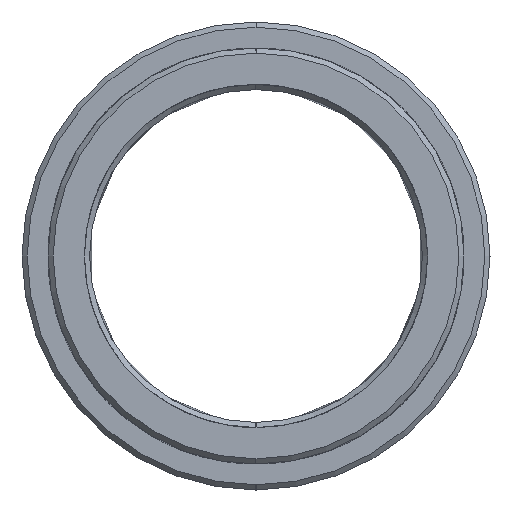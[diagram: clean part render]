
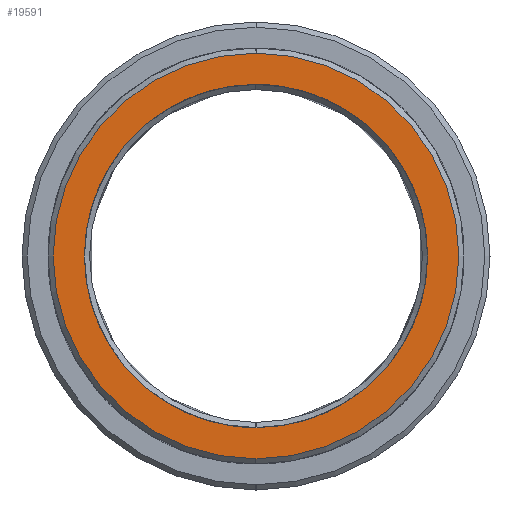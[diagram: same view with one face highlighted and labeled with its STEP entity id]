
A CAD part, left-side view. The second image highlights one B-rep face of the part: STEP entity #19591.
In plain terms, the highlighted planar face has unit normal (1, 0, 0).
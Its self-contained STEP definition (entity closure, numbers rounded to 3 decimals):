
#19508=CARTESIAN_POINT('Axis2P3D Location',(-20.,0.,0.)) ;
#19513=CARTESIAN_POINT('Axis2P3D Location',(-20.,0.,0.)) ;
#19517=CARTESIAN_POINT('Vertex',(-20.,0.,-19.5)) ;
#19519=CARTESIAN_POINT('Vertex',(-20.,0.,19.5)) ;
#19522=CARTESIAN_POINT('Axis2P3D Location',(-20.,0.,0.)) ;
#19532=CARTESIAN_POINT('Control Point',(-20.,0.,16.5)) ;
#19533=CARTESIAN_POINT('Control Point',(-20.,1.592,16.5)) ;
#19534=CARTESIAN_POINT('Control Point',(-20.,3.184,16.308)) ;
#19535=CARTESIAN_POINT('Control Point',(-20.,4.745,15.924)) ;
#19536=CARTESIAN_POINT('Control Point',(-20.,7.744,14.787)) ;
#19537=CARTESIAN_POINT('Control Point',(-20.,10.386,12.97)) ;
#19538=CARTESIAN_POINT('Control Point',(-20.,11.591,11.905)) ;
#19539=CARTESIAN_POINT('Control Point',(-20.,13.72,9.507)) ;
#19540=CARTESIAN_POINT('Control Point',(-20.,15.218,6.671)) ;
#19541=CARTESIAN_POINT('Control Point',(-20.,15.791,5.169)) ;
#19542=CARTESIAN_POINT('Control Point',(-20.,16.565,2.057)) ;
#19543=CARTESIAN_POINT('Control Point',(-20.,16.576,-1.15)) ;
#19544=CARTESIAN_POINT('Control Point',(-20.,16.387,-2.747)) ;
#19545=CARTESIAN_POINT('Control Point',(-20.,15.629,-5.863)) ;
#19546=CARTESIAN_POINT('Control Point',(-20.,14.151,-8.709)) ;
#19547=CARTESIAN_POINT('Control Point',(-20.,13.243,-10.036)) ;
#19548=CARTESIAN_POINT('Control Point',(-20.,11.125,-12.444)) ;
#19549=CARTESIAN_POINT('Control Point',(-20.,8.496,-14.28)) ;
#19550=CARTESIAN_POINT('Control Point',(-20.,7.076,-15.034)) ;
#19551=CARTESIAN_POINT('Control Point',(-20.,4.813,-15.904)) ;
#19552=CARTESIAN_POINT('Control Point',(-20.,2.442,-16.349)) ;
#19553=CARTESIAN_POINT('Control Point',(-20.,1.631,-16.45)) ;
#19554=CARTESIAN_POINT('Control Point',(-20.,0.815,-16.5)) ;
#19555=CARTESIAN_POINT('Control Point',(-20.,0.,-16.5)) ;
#19556=CARTESIAN_POINT('Vertex',(-20.,0.,16.5)) ;
#19558=CARTESIAN_POINT('Vertex',(-20.,0.,-16.5)) ;
#19562=CARTESIAN_POINT('Control Point',(-20.,0.,-16.5)) ;
#19563=CARTESIAN_POINT('Control Point',(-20.,-1.592,-16.5)) ;
#19564=CARTESIAN_POINT('Control Point',(-20.,-3.184,-16.308)) ;
#19565=CARTESIAN_POINT('Control Point',(-20.,-4.745,-15.924)) ;
#19566=CARTESIAN_POINT('Control Point',(-20.,-7.744,-14.787)) ;
#19567=CARTESIAN_POINT('Control Point',(-20.,-10.386,-12.97)) ;
#19568=CARTESIAN_POINT('Control Point',(-20.,-11.591,-11.905)) ;
#19569=CARTESIAN_POINT('Control Point',(-20.,-13.72,-9.507)) ;
#19570=CARTESIAN_POINT('Control Point',(-20.,-15.218,-6.671)) ;
#19571=CARTESIAN_POINT('Control Point',(-20.,-15.791,-5.169)) ;
#19572=CARTESIAN_POINT('Control Point',(-20.,-16.565,-2.057)) ;
#19573=CARTESIAN_POINT('Control Point',(-20.,-16.576,1.15)) ;
#19574=CARTESIAN_POINT('Control Point',(-20.,-16.387,2.747)) ;
#19575=CARTESIAN_POINT('Control Point',(-20.,-15.629,5.863)) ;
#19576=CARTESIAN_POINT('Control Point',(-20.,-14.151,8.709)) ;
#19577=CARTESIAN_POINT('Control Point',(-20.,-13.243,10.036)) ;
#19578=CARTESIAN_POINT('Control Point',(-20.,-11.125,12.444)) ;
#19579=CARTESIAN_POINT('Control Point',(-20.,-8.496,14.28)) ;
#19580=CARTESIAN_POINT('Control Point',(-20.,-7.076,15.034)) ;
#19581=CARTESIAN_POINT('Control Point',(-20.,-4.813,15.904)) ;
#19582=CARTESIAN_POINT('Control Point',(-20.,-2.442,16.349)) ;
#19583=CARTESIAN_POINT('Control Point',(-20.,-1.631,16.45)) ;
#19584=CARTESIAN_POINT('Control Point',(-20.,-0.815,16.5)) ;
#19585=CARTESIAN_POINT('Control Point',(-20.,0.,16.5)) ;
#19509=DIRECTION('Axis2P3D Direction',(1.,0.,0.)) ;
#19510=DIRECTION('Axis2P3D XDirection',(0.,1.,0.)) ;
#19514=DIRECTION('Axis2P3D Direction',(1.,0.,0.)) ;
#19523=DIRECTION('Axis2P3D Direction',(1.,0.,0.)) ;
#19511=AXIS2_PLACEMENT_3D('Plane Axis2P3D',#19508,#19509,#19510) ;
#19515=AXIS2_PLACEMENT_3D('Circle Axis2P3D',#19513,#19514,$) ;
#19524=AXIS2_PLACEMENT_3D('Circle Axis2P3D',#19522,#19523,$) ;
#19528=ORIENTED_EDGE('',*,*,#19521,.T.) ;
#19529=ORIENTED_EDGE('',*,*,#19526,.T.) ;
#19588=ORIENTED_EDGE('',*,*,#19560,.T.) ;
#19589=ORIENTED_EDGE('',*,*,#19586,.T.) ;
#19590=FACE_BOUND('',#19587,.T.) ;
#19591=ADVANCED_FACE('MANIFOLD_SOLID_BREP #9701',(#19530,#19590),#19512,.T.) ;
#19531=B_SPLINE_CURVE_WITH_KNOTS('',5,(#19532,#19533,#19534,#19535,#19536,#19537,#19538,#19539,#19540,#19541,#19542,#19543,#19544,#19545,#19546,#19547,#19548,#19549,#19550,#19551,#19552,#19553,#19554,#19555),.UNSPECIFIED.,.F.,.U.,(6,3,3,3,3,3,3,6),(0.,11.257,22.514,33.771,45.028,56.284,67.541,73.307),.UNSPECIFIED.) ;
#19561=B_SPLINE_CURVE_WITH_KNOTS('',5,(#19562,#19563,#19564,#19565,#19566,#19567,#19568,#19569,#19570,#19571,#19572,#19573,#19574,#19575,#19576,#19577,#19578,#19579,#19580,#19581,#19582,#19583,#19584,#19585),.UNSPECIFIED.,.F.,.U.,(6,3,3,3,3,3,3,6),(0.,11.257,22.514,33.771,45.028,56.284,67.541,73.307),.UNSPECIFIED.) ;
#19516=CIRCLE('generated circle',#19515,19.5) ;
#19525=CIRCLE('generated circle',#19524,19.5) ;
#19521=EDGE_CURVE('',#19518,#19520,#19516,.T.) ;
#19526=EDGE_CURVE('',#19520,#19518,#19525,.T.) ;
#19560=EDGE_CURVE('',#19557,#19559,#19531,.T.) ;
#19586=EDGE_CURVE('',#19559,#19557,#19561,.T.) ;
#19527=EDGE_LOOP('',(#19528,#19529)) ;
#19587=EDGE_LOOP('',(#19588,#19589)) ;
#19530=FACE_OUTER_BOUND('',#19527,.T.) ;
#19512=PLANE('Plane',#19511) ;
#19518=VERTEX_POINT('',#19517) ;
#19520=VERTEX_POINT('',#19519) ;
#19557=VERTEX_POINT('',#19556) ;
#19559=VERTEX_POINT('',#19558) ;
